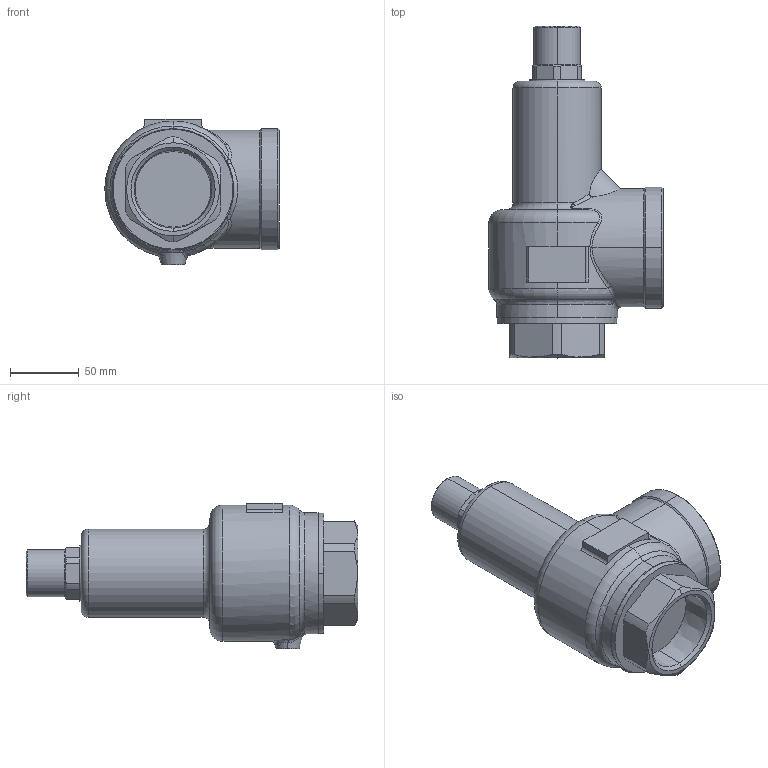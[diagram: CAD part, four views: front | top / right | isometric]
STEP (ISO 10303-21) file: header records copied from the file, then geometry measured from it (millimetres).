
FILE_DESCRIPTION (( 'STEP AP203' ), '1' );
FILE_NAME ('AL-150H 50A.STEP', '2026-01-13T01:59:35', ( '' ), ( '' ), 'SwSTEP 2.0', 'SolidWorks 2024', '' );
FILE_SCHEMA (( 'CONFIG_CONTROL_DESIGN' ));
Length unit declared in the file: millimetre
Products named in the file (1): AL-150H 50A
Bounding box: 126.5 x 241 x 106 mm (x, y, z)
Volume: 1120886.7 mm3; surface area: 84875.6 mm2
Topology: 1 solids, 1 shells, 116 faces, 280 edges, 172 vertices
Faces by surface type: cylinder 33, plane 28, cone 22, bspline 19, torus 14
Entity records: 5505 total; most frequent: CARTESIAN_POINT 2811, ORIENTED_EDGE 560, DIRECTION 546, EDGE_CURVE 280, AXIS2_PLACEMENT_3D 228, VERTEX_POINT 172, CIRCLE 130, EDGE_LOOP 122
